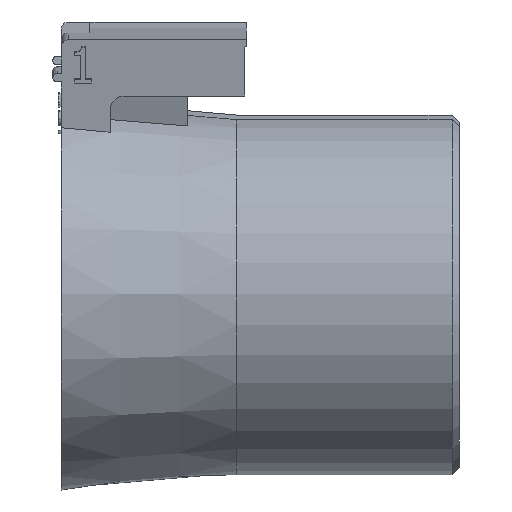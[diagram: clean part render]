
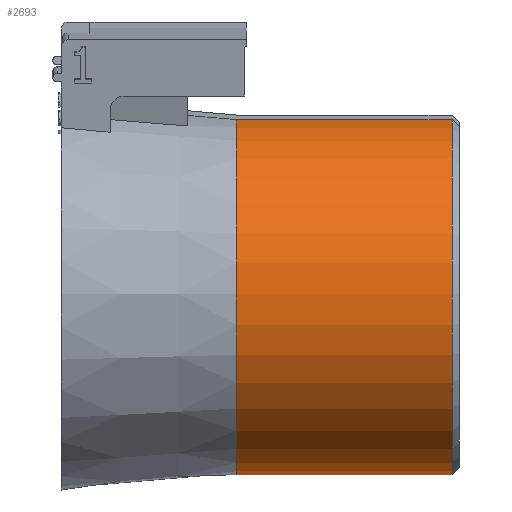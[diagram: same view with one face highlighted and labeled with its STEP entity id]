
A CAD part, front view. The second image highlights one B-rep face of the part: STEP entity #2693.
In plain terms, the highlighted cylindrical face has radius 12.5 mm (diameter 25 mm), a partial arc.
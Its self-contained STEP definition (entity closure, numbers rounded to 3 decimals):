
#49=CYLINDRICAL_SURFACE('',#2872,12.5);
#82=CIRCLE('',#2849,12.5);
#94=CIRCLE('',#2873,12.5);
#400=FACE_OUTER_BOUND('',#549,.T.);
#549=EDGE_LOOP('',(#2305,#2306,#2307,#2308));
#800=LINE('',#4459,#1067);
#822=LINE('',#4506,#1089);
#1067=VECTOR('',#3368,10.);
#1089=VECTOR('',#3404,10.);
#1309=VERTEX_POINT('',#4377);
#1310=VERTEX_POINT('',#4382);
#1335=VERTEX_POINT('',#4458);
#1353=VERTEX_POINT('',#4505);
#1635=EDGE_CURVE('',#1309,#1310,#82,.T.);
#1670=EDGE_CURVE('',#1335,#1310,#800,.T.);
#1695=EDGE_CURVE('',#1353,#1309,#822,.T.);
#1696=EDGE_CURVE('',#1335,#1353,#94,.T.);
#2305=ORIENTED_EDGE('',*,*,#1695,.F.);
#2306=ORIENTED_EDGE('',*,*,#1696,.F.);
#2307=ORIENTED_EDGE('',*,*,#1670,.T.);
#2308=ORIENTED_EDGE('',*,*,#1635,.F.);
#2693=ADVANCED_FACE('',(#400),#49,.T.);
#2849=AXIS2_PLACEMENT_3D('',#4383,#3312,#3313);
#2872=AXIS2_PLACEMENT_3D('',#4504,#3402,#3403);
#2873=AXIS2_PLACEMENT_3D('',#4507,#3405,#3406);
#3312=DIRECTION('center_axis',(-1.,0.,0.));
#3313=DIRECTION('ref_axis',(0.,-0.985,-0.174));
#3368=DIRECTION('',(-1.,0.,0.));
#3402=DIRECTION('center_axis',(-1.,0.,0.));
#3403=DIRECTION('ref_axis',(0.,-0.985,-0.174));
#3404=DIRECTION('',(-1.,0.,0.));
#3405=DIRECTION('center_axis',(1.,0.,0.));
#3406=DIRECTION('ref_axis',(0.,0.985,0.174));
#4377=CARTESIAN_POINT('',(11.43,0.315,-12.496));
#4382=CARTESIAN_POINT('',(11.43,-3.716,12.175));
#4383=CARTESIAN_POINT('Origin',(11.43,-1.545,-0.135));
#4458=CARTESIAN_POINT('',(26.5,-3.716,12.175));
#4459=CARTESIAN_POINT('',(19.215,-3.716,12.175));
#4504=CARTESIAN_POINT('Origin',(19.215,-1.545,-0.135));
#4505=CARTESIAN_POINT('',(26.5,0.315,-12.496));
#4506=CARTESIAN_POINT('',(19.215,0.315,-12.496));
#4507=CARTESIAN_POINT('Origin',(26.5,-1.545,-0.135));
